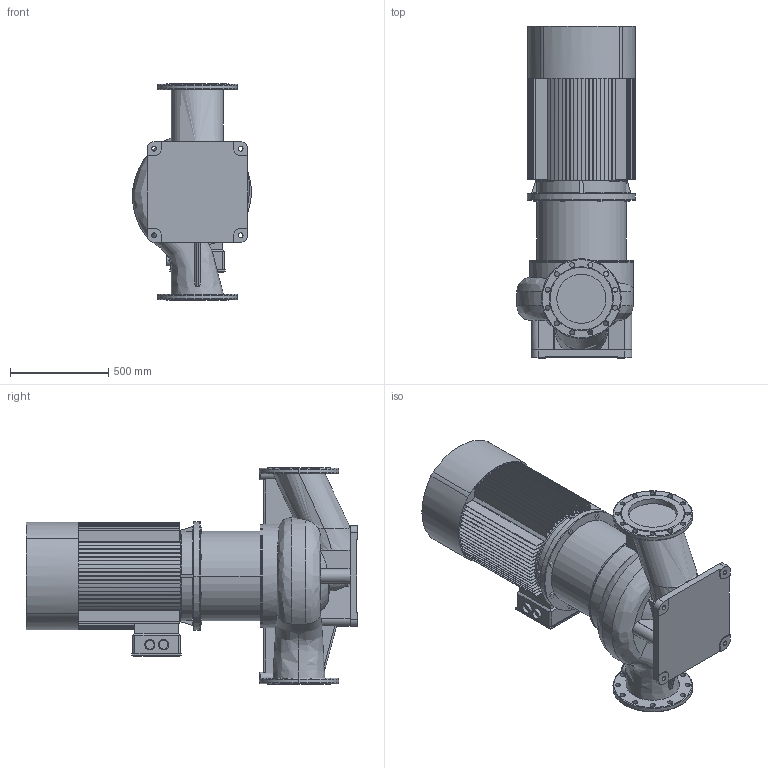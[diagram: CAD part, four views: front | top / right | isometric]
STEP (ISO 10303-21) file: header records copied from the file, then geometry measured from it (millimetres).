
FILE_DESCRIPTION (( 'STEP AP203' ), '1' );
FILE_NAME ('TD250-32_4.STEP', '2022-05-02T18:09:02', ( '' ), ( '' ), 'SwSTEP 2.0', 'SolidWorks 2019', '' );
FILE_SCHEMA (( 'CONFIG_CONTROL_DESIGN' ));
Length unit declared in the file: millimetre
Products named in the file (4): ED_B5_YE2-280M-4 (90); Pr_ch 250_TD250-32_4; Fon_250_TD250-32_4; TD250-32_4
Assembly tree (3 placements, depth 2):
  TD250-32_4
    Pr_ch 250_TD250-32_4
    Fon_250_TD250-32_4
    ED_B5_YE2-280M-4 (90)
Bounding box: 604.73 x 1687 x 1100 mm (x, y, z)
Volume: 318704389.4 mm3; surface area: 9216602.3 mm2
Topology: 13 solids, 15 shells, 825 faces, 2247 edges, 1490 vertices
Faces by surface type: plane 566, cylinder 188, torus 34, bspline 20, cone 17
Entity records: 35420 total; most frequent: CARTESIAN_POINT 13656, ORIENTED_EDGE 4494, DIRECTION 4438, EDGE_CURVE 2247, AXIS2_PLACEMENT_3D 1527, VERTEX_POINT 1490, LINE 1384, VECTOR 1384
